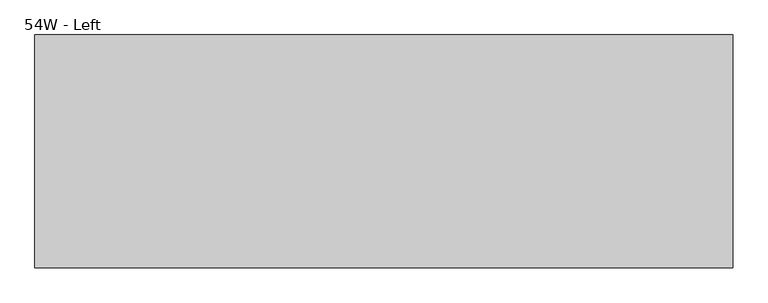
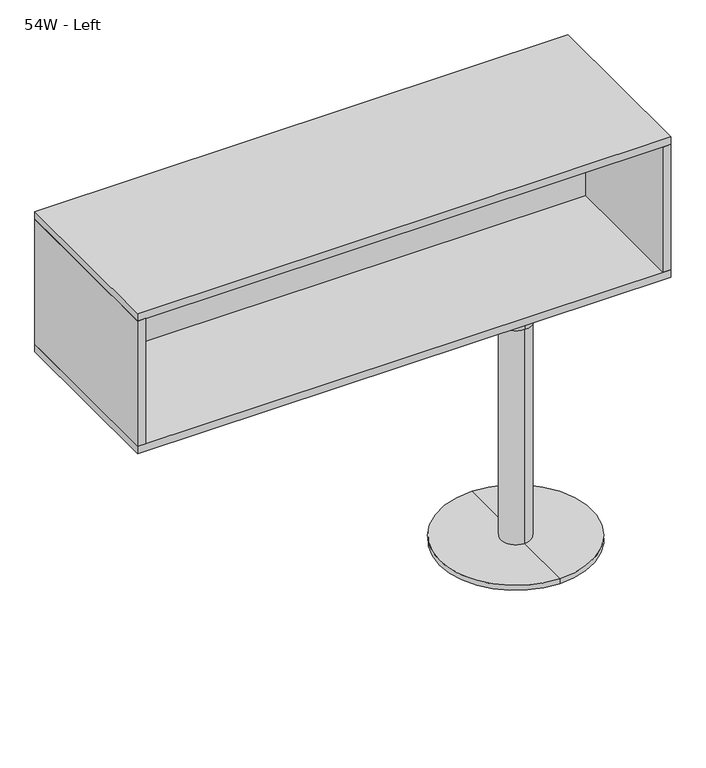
"""IFC4 building model written with IfcOpenShell, lengths in millimetres: furniture geometry, Steelcase - Duo Storage - For Use with Answer Junction - Tall Storage with Leg - Individual : 54W - Left."""

from ifc_helpers import new_model, si_unit, frame, origin, place, context, project, spatial, polyline, circle_curve, outline, extrude, source, transform, mapped, element, save
from ifc_brep_helpers import plane_surface, cylinder_surface, advanced_brep


def furniture_54w_left_7cc40421(model_context):
    return source(origin(), model_context, "Body", "SolidModel", [
        extrude(outline(polyline([(1351.2797287, 115.3159264), (20.32, 115.3159264), (20.32, 137.1599419), (1351.2797287, 137.1599419), (1351.2797287, 115.3159264)])), frame((0.0, 0.0, 779.2719806), z_axis=(0.0, 0.0, 1.0), x_axis=(1.0, 0.0, 0.0)), (0.0, 0.0, 1.0), 340.3600194),
        advanced_brep(
        [(1104.8997287, 196.1389534, 0.0), (1104.8997287, -196.1389534, 0.0), (1104.8997287, -196.1389534, 12.7), (1104.8997287, 196.1389534, 12.7), (1104.8997287, 0.0, 0.0), (1104.8997287, 41.4195882, 758.952), (1104.8997287, -41.4195882, 758.952), (1104.8997287, 0.0, 758.952), (1104.8997287, 41.4195882, 596.9), (1104.8997287, -41.4195882, 596.9), (1104.8997287, 38.1, 596.9), (1104.8997287, -38.1, 596.9), (1104.8997287, 38.1, 12.7), (1104.8997287, -38.1, 12.7)],
        [
            (0, 1, circle_curve(frame((1104.8997287, 0.0, 0.0), z_axis=(0.0, 0.0, 1.0), x_axis=(0.0, -1.0, 0.0)), 196.1389534)),
            (1, 2),
            (2, 3, circle_curve(frame((1104.8997287, 0.0, 12.7), z_axis=(0.0, 0.0, -1.0), x_axis=(0.0, -1.0, 0.0)), 196.1389534)),
            (3, 0),
            (1, 0, circle_curve(frame((1104.8997287, 0.0, 0.0), z_axis=(0.0, 0.0, 1.0), x_axis=(0.0, -1.0, 0.0)), 196.1389534)),
            (3, 2, circle_curve(frame((1104.8997287, 0.0, 12.7), z_axis=(0.0, 0.0, -1.0), x_axis=(0.0, -1.0, 0.0)), 196.1389534)),
            (4, 1),
            (0, 4),
            (5, 6, circle_curve(frame((1104.8997287, 0.0, 758.952), z_axis=(0.0, 0.0, 1.0), x_axis=(0.0, -1.0, 0.0)), 41.4195882)),
            (6, 7),
            (7, 5),
            (6, 5, circle_curve(frame((1104.8997287, 0.0, 758.952), z_axis=(0.0, 0.0, 1.0), x_axis=(0.0, -1.0, 0.0)), 41.4195882)),
            (8, 9, circle_curve(frame((1104.8997287, 0.0, 596.9), z_axis=(0.0, 0.0, 1.0), x_axis=(0.0, -1.0, 0.0)), 41.4195882)),
            (9, 6),
            (5, 8),
            (9, 8, circle_curve(frame((1104.8997287, 0.0, 596.9), z_axis=(0.0, 0.0, 1.0), x_axis=(0.0, -1.0, 0.0)), 41.4195882)),
            (10, 11, circle_curve(frame((1104.8997287, 0.0, 596.9), z_axis=(0.0, 0.0, 1.0), x_axis=(0.0, -1.0, 0.0)), 38.1)),
            (11, 9),
            (8, 10),
            (11, 10, circle_curve(frame((1104.8997287, 0.0, 596.9), z_axis=(0.0, 0.0, 1.0), x_axis=(0.0, -1.0, 0.0)), 38.1)),
            (12, 13, circle_curve(frame((1104.8997287, 0.0, 12.7), z_axis=(0.0, 0.0, 1.0), x_axis=(0.0, -1.0, 0.0)), 38.1)),
            (13, 11),
            (10, 12),
            (13, 12, circle_curve(frame((1104.8997287, 0.0, 12.7), z_axis=(0.0, 0.0, 1.0), x_axis=(0.0, -1.0, 0.0)), 38.1)),
            (2, 13),
            (12, 3),
        ],
        [
            cylinder_surface(frame((1104.8997287, 0.0, 581.025), z_axis=(0.0, 0.0, -1.0), x_axis=(0.0, -1.0, 0.0)), 196.1389534),
            plane_surface(frame((1104.8997287, 0.0, 0.0), z_axis=(0.0, 0.0, -1.0), x_axis=(0.0, -1.0, 0.0))),
            plane_surface(frame((1104.8997287, 0.0, 758.952), z_axis=(0.0, 0.0, 1.0), x_axis=(0.0, -1.0, 0.0))),
            cylinder_surface(frame((1104.8997287, 0.0, 581.025), z_axis=(0.0, 0.0, -1.0), x_axis=(0.0, -1.0, 0.0)), 41.4195882),
            plane_surface(frame((1104.8997287, 0.0, 596.9), z_axis=(0.0, 0.0, -1.0), x_axis=(0.0, -1.0, 0.0))),
            cylinder_surface(frame((1104.8997287, 0.0, 581.025), z_axis=(0.0, 0.0, -1.0), x_axis=(0.0, -1.0, 0.0)), 38.1),
            plane_surface(frame((1104.8997287, 0.0, 12.7), z_axis=(0.0, 0.0, 1.0), x_axis=(0.0, -1.0, 0.0))),
        ],
        [
            (0, [[1, 2, 3, 4]]),
            (0, [[5, -4, 6, -2]]),
            (1, [[7, -1, 8]]),
            (1, [[-8, -5, -7]]),
            (2, [[9, 10, 11]]),
            (2, [[12, -11, -10]]),
            (3, [[13, 14, -9, 15]]),
            (3, [[16, -15, -12, -14]]),
            (4, [[17, 18, -13, 19]]),
            (4, [[20, -19, -16, -18]]),
            (5, [[21, 22, -17, 23]]),
            (5, [[24, -23, -20, -22]]),
            (6, [[-3, 25, -21, 26]]),
            (6, [[-6, -26, -24, -25]]),
        ],
    ),
        extrude(outline(polyline([(1371.6, 228.6), (1371.6, -228.6), (1351.2797287, -228.6), (1351.2797287, 228.6), (1371.6, 228.6)])), frame((0.0, 0.0, 779.2719806), z_axis=(0.0, 0.0, 1.0), x_axis=(1.0, 0.0, 0.0)), (0.0, 0.0, 1.0), 340.3600194),
        extrude(outline(polyline([(20.32, 228.6), (20.32, -228.6), (0.0, -228.6), (0.0, 228.6), (20.32, 228.6)])), frame((0.0, 0.0, 779.2719806), z_axis=(0.0, 0.0, 1.0), x_axis=(1.0, 0.0, 0.0)), (0.0, 0.0, 1.0), 340.3600194),
        extrude(outline(polyline([(1371.6, 228.6), (1371.6, -228.6), (0.0, -228.6), (0.0, 228.6), (1371.6, 228.6)])), frame((0.0, 0.0, 1119.632), z_axis=(0.0, 0.0, 1.0), x_axis=(1.0, 0.0, 0.0)), (0.0, 0.0, 1.0), 20.32),
        extrude(outline(polyline([(1371.6, 228.6), (1371.6, -228.6), (0.0, -228.6), (0.0, 228.6), (1371.6, 228.6)])), frame((0.0, 0.0, 758.952), z_axis=(0.0, 0.0, 1.0), x_axis=(1.0, 0.0, 0.0)), (0.0, 0.0, 1.0), 20.3199806),
    ])


if __name__ == "__main__":
    model = new_model("IFC4")
    model_context = context("Model", 3, world=origin())
    ifc_project = project(units=[si_unit("LENGTHUNIT", "METRE", prefix="MILLI")], contexts=[model_context])
    site = spatial("IfcSite", under=ifc_project)
    building = spatial("IfcBuilding", under=site)
    placement = place(None, origin())
    furniture_54w_left_shape = furniture_54w_left_7cc40421(model_context)
    element("IfcFurniture", 1, ObjectType="Steelcase - Duo Storage - For Use with Answer Junction - Tall Storage with Leg - Individual : 54W - Left", at=placement, inside=building, context=model_context, shape_type="MappedRepresentation", body=[
        mapped(furniture_54w_left_shape, transform((0.0, 0.0, 0.0), x_axis=(1.0, 0.0, 0.0), y_axis=(0.0, 1.0, 0.0), z_axis=(0.0, 0.0, 1.0))),
    ])
    save(model, "model.ifc")
